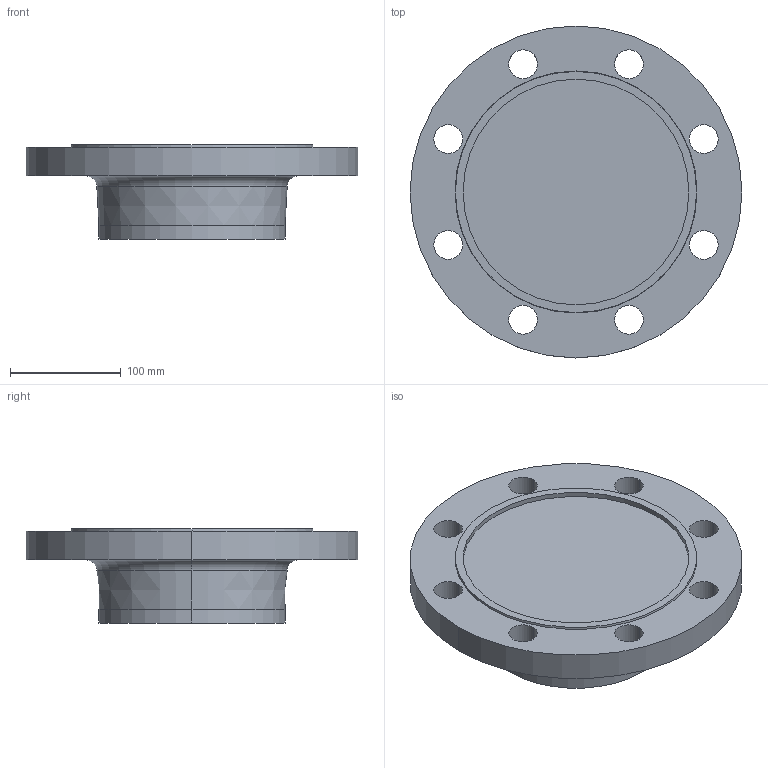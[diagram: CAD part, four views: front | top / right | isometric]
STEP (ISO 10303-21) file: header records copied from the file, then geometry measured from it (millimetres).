
FILE_DESCRIPTION (( 'STEP AP214' ), '1' );
FILE_NAME ('PN40 DN150 Type 21(ii) - Type F Face.STEP', '2019-01-02T23:06:01', ( '' ), ( '' ), 'SwSTEP 2.0', 'SolidWorks 2019', '' );
FILE_SCHEMA (( 'AUTOMOTIVE_DESIGN' ));
Length unit declared in the file: millimetre
Products named in the file (1): PN40 DN150 Type 21(ii) - Type F Face
Bounding box: 300 x 300 x 85 mm (x, y, z)
Volume: 2962015.9 mm3; surface area: 205622.8 mm2
Topology: 1 solids, 1 shells, 35 faces, 84 edges, 54 vertices
Faces by surface type: cylinder 22, plane 5, torus 4, cone 4
Entity records: 1114 total; most frequent: DIRECTION 214, CARTESIAN_POINT 174, ORIENTED_EDGE 168, AXIS2_PLACEMENT_3D 94, EDGE_CURVE 84, CIRCLE 58, VERTEX_POINT 54, EDGE_LOOP 54
